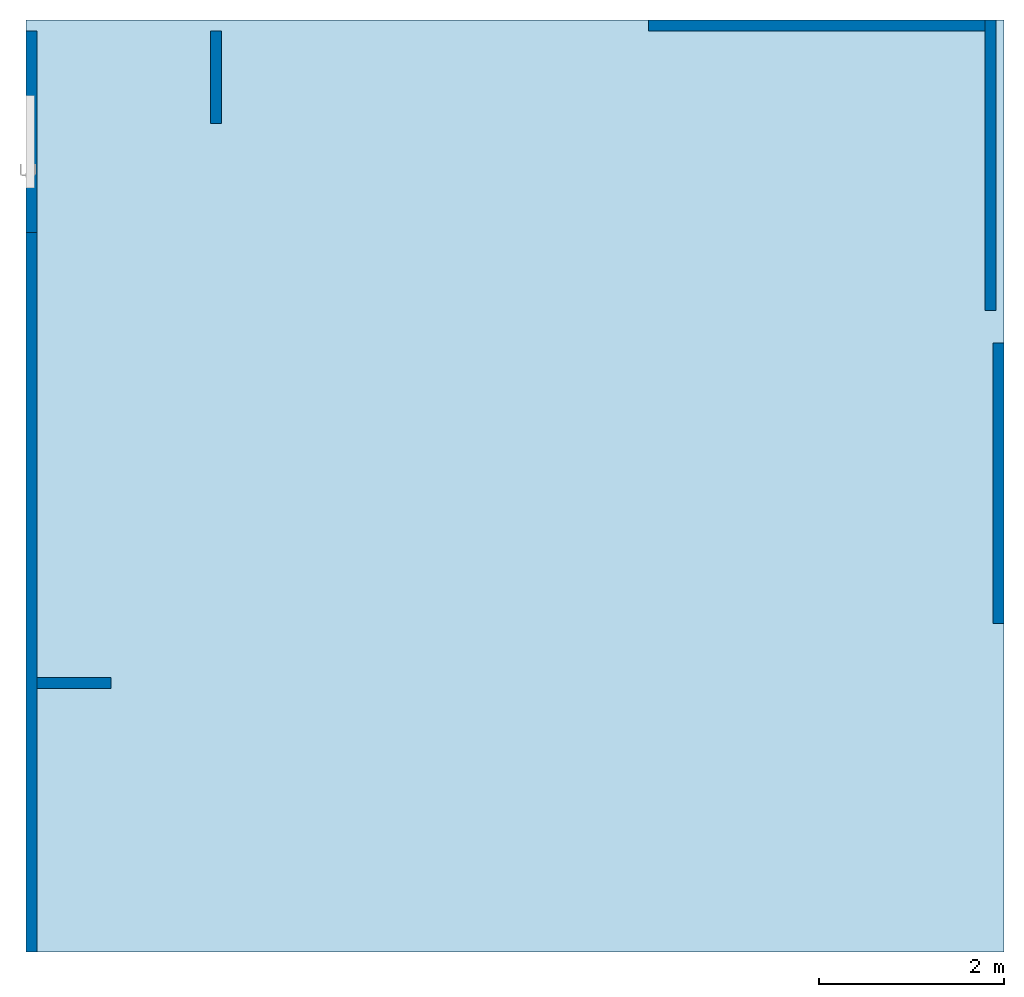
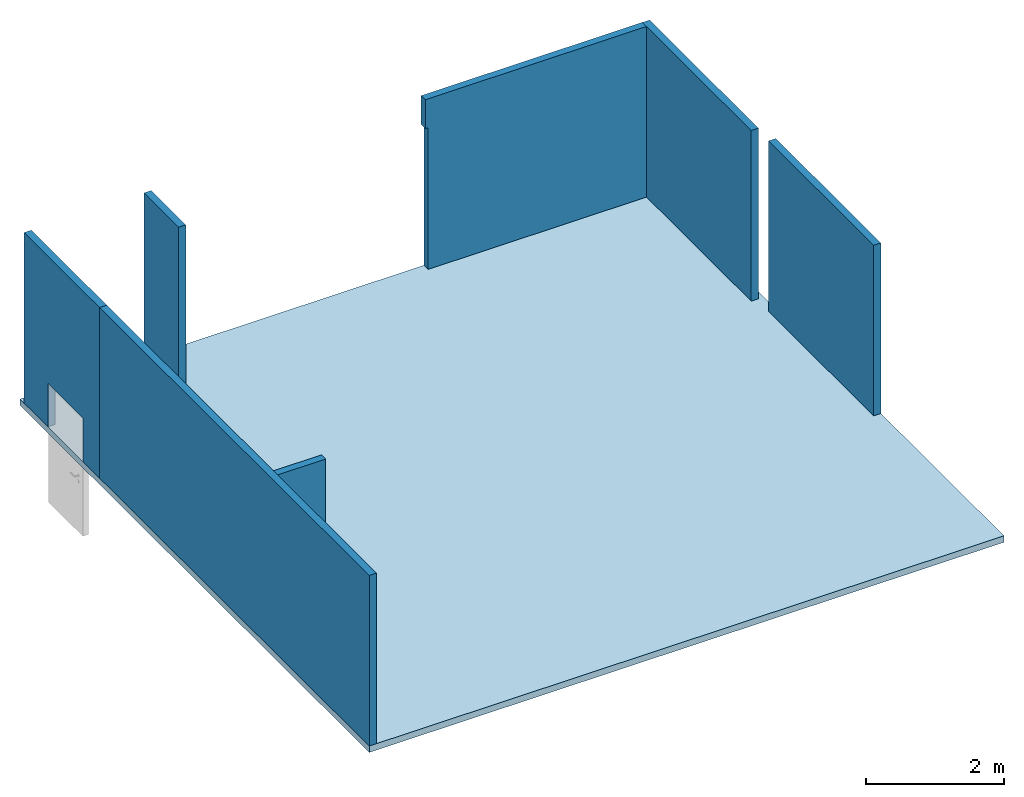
# One storey, part 1 of 2: 7 walls, 1 slab, 1 opening.
"""IFC2X3 building model written with IfcOpenShell, lengths in millimetres."""

from ifc_helpers import new_model, entity, si_unit, converted_unit, derived_unit, direction, frame, frame_2d, origin, origin_with_axes, place, context, subcontext, project, spatial, rectangle, extrude, faceted_brep, material, layer, layer_set, layer_usage, type_object, element, save


model = new_model("IFC2X3")

# Units and contexts
model_context = context("Model", 3, precision=0.01, world=origin(), true_north=direction((6.12303176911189e-17, 1.0)))
plan_context = context("Plan", 3, precision=1e-05, world=origin_with_axes())
body_context = subcontext(model_context, "Body", "Model", "MODEL_VIEW")
ifc_project = project(units=[converted_unit("PLANEANGLEUNIT", "DEGREE", entity("IfcPositiveLengthMeasure", 0.0174532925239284), si_unit("PLANEANGLEUNIT", "RADIAN"), dimensions=[0, 0, 0, 0, 0, 0, 0]), si_unit("AREAUNIT", "SQUARE_METRE"), si_unit("LENGTHUNIT", "METRE", prefix="MILLI"), si_unit("MASSUNIT", "GRAM", prefix="KILO"), si_unit("POWERUNIT", "WATT"), si_unit("PRESSUREUNIT", "PASCAL"), si_unit("FORCEUNIT", "NEWTON", prefix="KILO"), si_unit("ELECTRICVOLTAGEUNIT", "VOLT"), si_unit("ELECTRICCURRENTUNIT", "AMPERE"), si_unit("THERMODYNAMICTEMPERATUREUNIT", "DEGREE_CELSIUS"), si_unit("TIMEUNIT", "SECOND"), si_unit("VOLUMEUNIT", "CUBIC_METRE"), derived_unit("LINEARVELOCITYUNIT", [(si_unit("LENGTHUNIT", "METRE"), 1), (si_unit("TIMEUNIT", "SECOND"), -1)]), derived_unit("VOLUMETRICFLOWRATEUNIT", [(si_unit("VOLUMEUNIT", "CUBIC_METRE"), 1), (si_unit("TIMEUNIT", "SECOND"), -1)]), derived_unit("THERMALTRANSMITTANCEUNIT", [(si_unit("POWERUNIT", "WATT"), 1), (si_unit("THERMODYNAMICTEMPERATUREUNIT", "KELVIN"), -1), (si_unit("AREAUNIT", "SQUARE_METRE"), -1)]), derived_unit("SOUNDPRESSUREUNIT", [(si_unit("PRESSUREUNIT", "PASCAL"), 1)])], contexts=[model_context, plan_context])

# Site, building, storey
site_placement = place(None, frame((2314154.5009392, 1029894.10887124, 0.0), z_axis=(0.0, 0.0, 1.0), x_axis=(1.0, 0.0, 0.0)))
site = spatial("IfcSite", under=ifc_project, at=site_placement, Name="Default", CompositionType="ELEMENT")
building_placement = place(site_placement, origin_with_axes())
building = spatial("IfcBuilding", under=site, at=building_placement, CompositionType="ELEMENT")
storey_placement = place(building_placement, frame((0.0, 0.0, 9320.0), z_axis=(0.0, 0.0, 1.0), x_axis=(1.0, 0.0, 0.0)))
storey = spatial("IfcBuildingStorey", under=building, at=storey_placement, Name="H01 Hovedetasje", CompositionType="ELEMENT", Elevation=9320.0)

# Slab
ifc_material_1 = material(Name="_NSW Betong")
ifc_layer_1 = layer(ifc_material_1, 113.2)
ifc_layer_set_1 = layer_set([ifc_layer_1], Name="Floor:TB_Betong EKS.")
slab_type = type_object("IfcSlabType", Name="Floor:TB_Betong EKS.", PredefinedType="FLOOR", material=ifc_layer_set_1)
slab_placement = place(storey_placement, origin_with_axes())
element("IfcSlab", 1, at=slab_placement, inside=storey, type_object=slab_type, Name="Floor:TB_Betong EKS.", ObjectType="Floor:TB_Betong EKS.", PredefinedType="FLOOR", context=body_context, shape_type="Brep", body=[
    faceted_brep([(301746.74542917, -43424.4514097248, 1330.0), (301746.74542917, -33327.4514097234, 1330.0), (312341.133947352, -33327.4514097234, 1330.0), (312341.133947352, -43424.4514097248, 1330.0), (301746.74542917, -33327.4514097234, 1216.8), (301746.74542917, -43424.4514097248, 1216.8), (312341.133947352, -43424.4514097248, 1216.8), (312341.133947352, -33327.4514097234, 1216.8)], [[[0, 1, 2, 3]], [[4, 5, 6, 7]], [[3, 2, 7, 6]], [[2, 1, 4, 7]], [[1, 0, 5, 4]], [[0, 3, 6, 5]]], orient=[[False], [False], [False], [False], [False], [False]]),
])

# Wall
ifc_material_2 = material(Name="Existing - Bridget key")
ifc_layer_2 = layer(ifc_material_2, 120.0)
ifc_layer_set_2 = layer_set([ifc_layer_2], Name="Basic Wall:V_Existing 120mm")
ifc_layer_usage_1 = layer_usage(ifc_layer_set_2, "AXIS2", "NEGATIVE", 60.0)
wall_type = type_object("IfcWallType", Name="Basic Wall:V_Existing 120mm", PredefinedType="STANDARD", material=ifc_layer_set_2)
wall_1_placement = place(storey_placement, frame((303806.745453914, -33447.4514097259, 1330.0), z_axis=(0.0, 0.0, 1.0), x_axis=(0.0, -1.0, 0.0)))
element("IfcWallStandardCase", 2, at=wall_1_placement, inside=storey, type_object=wall_type, material=ifc_layer_usage_1, Name="Basic Wall:V_Existing 120mm", ObjectType="Basic Wall:V_Existing 120mm", context=body_context, shape_type="SweptSolid", body=[
    extrude(rectangle(XDim=1000.00000000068, YDim=119.999999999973, at=frame_2d((500.000000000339, 0.0), x_axis=(-1.0, 0.0))), origin(), (0.0, 0.0, 1.0), 3010.0),
])

# Wall, opening
wall_2_placement = place(storey_placement, frame((301806.745429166, -33447.4514097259, 1330.0), z_axis=(0.0, 0.0, 1.0), x_axis=(0.0, -1.0, 0.0)))
wall_2 = element("IfcWallStandardCase", 3, at=wall_2_placement, inside=storey, type_object=wall_type, material=ifc_layer_usage_1, Name="Basic Wall:V_Existing 120mm", ObjectType="Basic Wall:V_Existing 120mm", context=body_context, shape_type="SweptSolid", body=[
    extrude(rectangle(XDim=2180.0, YDim=120.000000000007, at=frame_2d((1090.0, -1.732658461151e-11), x_axis=(1.0, 0.0))), origin(), (0.0, 0.0, 1.0), 3010.0),
])
opening_placement = place(wall_2_placement, frame((1707.62895362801, 60.0, -1330.0), z_axis=(0.0, 0.0, 1.0), x_axis=(1.0, 0.0, 0.0)))
element("IfcOpeningElement", 4, at=opening_placement, cuts=wall_2, Name="V_Generic Sgle Int:1000 x 2100mm:1", ObjectType="Opening", context=body_context, shape_type="SweptSolid", body=[
    extrude(rectangle(XDim=2100.00000000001, YDim=1020.0, at=frame_2d((1050.0, 510.000000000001), x_axis=(1.0, 0.0))), frame((0.0, 0.0, 0.0), z_axis=(0.0, -1.0, 0.0), x_axis=(0.0, 0.0, 1.0)), (0.0, 0.0, 1.0), 120.0),
])

# Walls
ifc_layer_usage_2 = layer_usage(ifc_layer_set_2, "AXIS2", "POSITIVE", -60.0)
wall_3_placement = place(storey_placement, frame((301866.745429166, -40507.8685958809, 1330.0), z_axis=(0.0, 0.0, 1.0), x_axis=(1.0, 0.0, 0.0)))
element("IfcWallStandardCase", 5, at=wall_3_placement, inside=storey, type_object=wall_type, material=ifc_layer_usage_2, Name="Basic Wall:V_Existing 120mm", ObjectType="Basic Wall:V_Existing 120mm", context=body_context, shape_type="SweptSolid", body=[
    extrude(rectangle(XDim=800.000033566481, YDim=120.000000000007, at=frame_2d((400.000016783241, 0.0), x_axis=(-1.0, 0.0))), origin(), (0.0, 0.0, 1.0), 3010.0),
])
wall_4_placement = place(storey_placement, frame((312281.133947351, -36824.4514097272, 1330.0), z_axis=(0.0, 0.0, 1.0), x_axis=(0.0, -1.0, 0.0)))
element("IfcWallStandardCase", 6, at=wall_4_placement, inside=storey, type_object=wall_type, material=ifc_layer_usage_2, Name="Basic Wall:V_Existing 120mm", ObjectType="Basic Wall:V_Existing 120mm", context=body_context, shape_type="SweptSolid", body=[
    extrude(rectangle(XDim=3040.0, YDim=119.999999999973, at=frame_2d((1520.0, 0.0), x_axis=(-1.0, 0.0))), origin(), (0.0, 0.0, 1.0), 3010.0),
])
wall_5_placement = place(storey_placement, frame((308443.133944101, -33387.4514097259, 1330.0), z_axis=(0.0, 0.0, 1.0), x_axis=(1.0, 0.0, 0.0)))
element("IfcWall", 7, at=wall_5_placement, inside=storey, type_object=wall_type, Name="Basic Wall:V_Existing 120mm", ObjectType="Basic Wall:V_Existing 120mm", context=body_context, shape_type="Brep", body=[
    faceted_brep([(48.0, -60.0, 0.0), (3691.25222567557, -60.0, 0.0), (3691.25222567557, -60.0, 3010.0), (0.0, -60.0, 3010.0), (0.0, -60.0, 2500.0), (48.0, -60.0, 2500.0), (48.0, 60.0, 0.0), (48.0, 60.0, 2500.0), (0.0, 60.0, 2500.0), (0.0, 60.0, 3010.0), (3691.25222567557, 60.0, 3010.0), (3691.25222567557, 60.0, 0.0)], [[[0, 1, 2, 3, 4, 5]], [[6, 7, 8, 9, 10, 11]], [[1, 0, 6, 11]], [[3, 2, 10, 9]], [[2, 1, 11, 10]], [[4, 3, 9, 8]], [[4, 8, 7, 5]], [[0, 5, 7, 6]]]),
])
wall_6_placement = place(storey_placement, frame((312194.386169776, -32745.4329800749, 1330.0), z_axis=(0.0, 0.0, 1.0), x_axis=(0.0, -1.0, 0.0)))
element("IfcWall", 8, at=wall_6_placement, inside=storey, type_object=wall_type, Name="Basic Wall:V_Existing 120mm", ObjectType="Basic Wall:V_Existing 120mm", context=body_context, shape_type="Brep", body=[
    faceted_brep([(3729.01842965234, -59.9999999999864, 0.0), (3729.01842965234, -59.9999999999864, 3010.0), (3729.01842965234, 59.9999999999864, 3010.0), (3729.01842965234, 59.9999999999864, 0.0), (582.018429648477, 59.9999999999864, 3010.0), (582.018429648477, 59.9999999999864, 0.0), (582.018429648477, -59.9999999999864, 0.0), (582.018429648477, -59.9999999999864, 3010.0)], [[[0, 1, 2, 3]], [[4, 5, 3, 2]], [[6, 7, 1, 0]], [[5, 6, 0, 3]], [[7, 4, 2, 1]], [[7, 6, 5, 4]]], orient=[[False], [False], [False], [False], [False], [False]]),
])
wall_7_placement = place(storey_placement, frame((301806.745429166, -35627.4514097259, 1330.0), z_axis=(0.0, 0.0, 1.0), x_axis=(0.0, -1.0, 0.0)))
element("IfcWall", 9, at=wall_7_placement, inside=storey, type_object=wall_type, Name="Basic Wall:V_Existing 120mm", ObjectType="Basic Wall:V_Existing 120mm", context=body_context, shape_type="Brep", body=[
    faceted_brep([(7796.99999999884, 59.9999999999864, 0.0), (7796.99999999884, 59.9999999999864, 3010.0), (0.0, 59.9999999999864, 3010.0), (0.0, 59.9999999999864, 0.0), (0.0, -59.9999999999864, 3010.0), (0.0, -59.9999999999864, 0.0), (7796.99999999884, -59.9999999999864, 3010.0), (7796.99999999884, -59.9999999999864, 0.0)], [[[0, 1, 2, 3]], [[3, 2, 4, 5]], [[6, 7, 5, 4]], [[7, 0, 3, 5]], [[1, 6, 4, 2]], [[7, 6, 1, 0]]], orient=[[False], [False], [False], [False], [False], [False]]),
])

save(model, "model.ifc")
